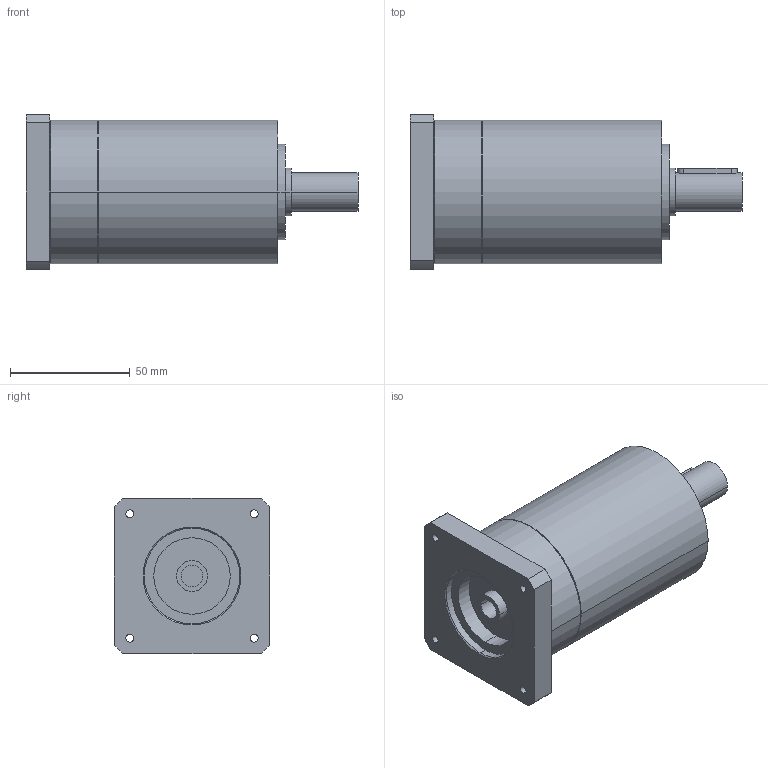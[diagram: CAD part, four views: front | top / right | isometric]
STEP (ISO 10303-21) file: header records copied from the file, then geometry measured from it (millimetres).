
FILE_DESCRIPTION(('CoCreate Modeling STEP Export'),'2;1');
FILE_NAME('GPR75_ig-9-12-16-20-24-30-36_16_B14_9_P34.stp','2014-08-25T16:07:44',(''),(''),'CoCreate Modeling STEP processor for AP214 (Solid Model)','CoCreate Modeling 16.00C 25-Feb-2009 (C) Parametric Technology GmbH','');
FILE_SCHEMA(('AUTOMOTIVE_DESIGN { 1 0 10303 214 1 1 1 1 }'));
Length unit declared in the file: millimetre
Products named in the file (2): GPR75_ig-9-12-16-20-24-30-36_16_B14_9_P34
Assembly tree (1 placements, depth 2):
  GPR75_ig-9-12-16-20-24-30-36_16_B14_9_P34
    GPR75_ig-9-12-16-20-24-30-36_16_B14_9_P34
Bounding box: 138.9 x 65 x 65 mm (x, y, z)
Volume: 310564.2 mm3; surface area: 34067.9 mm2
Topology: 1 solids, 1 shells, 72 faces, 192 edges, 134 vertices
Faces by surface type: cylinder 42, plane 22, cone 8
Entity records: 1979 total; most frequent: ORIENTED_EDGE 380, CARTESIAN_POINT 366, DIRECTION 268, EDGE_CURVE 190, VERTEX_POINT 134, AXIS2_PLACEMENT_3D 100, EDGE_LOOP 94, FACE_OUTER_BOUND 72
